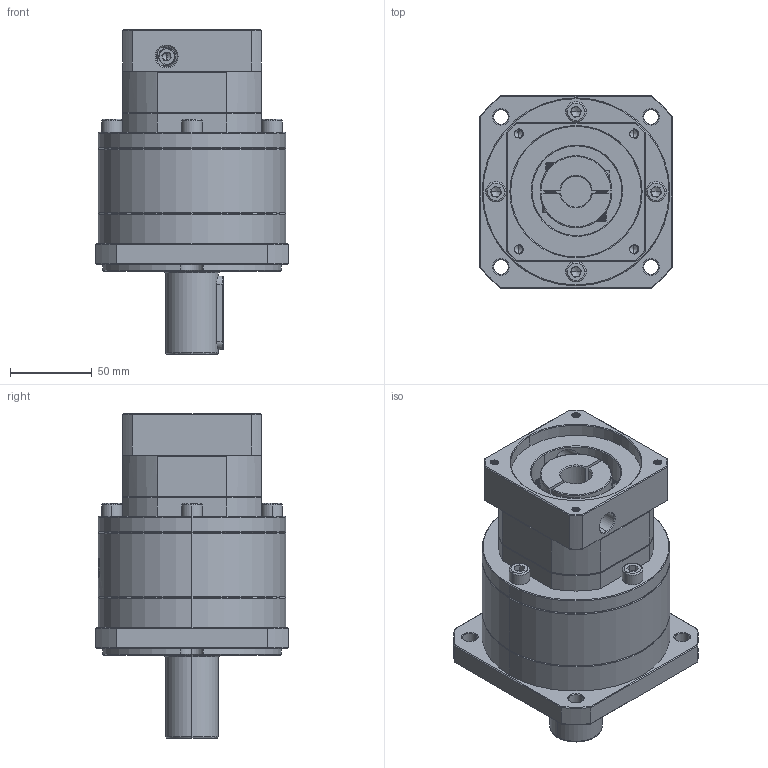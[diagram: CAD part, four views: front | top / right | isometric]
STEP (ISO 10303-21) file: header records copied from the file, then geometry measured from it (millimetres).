
FILE_DESCRIPTION (( 'STEP AP214' ), '1' );
FILE_NAME ('ZF120A-D32-L2-P2-19-80-100-M6.step', '2023-08-27T06:00:13', ( '' ), ( '' ), 'SwSTEP 2.0', 'SolidWorks 2016', '' );
FILE_SCHEMA (( 'AUTOMOTIVE_DESIGN' ));
Length unit declared in the file: millimetre
Products named in the file (1): ZF120A-D32-L2-P2-19-80-100-M6
Bounding box: 118 x 118 x 199 mm (x, y, z)
Volume: 1281547.7 mm3; surface area: 128946.9 mm2
Topology: 5 solids, 6 shells, 2212 faces, 5871 edges, 3758 vertices
Faces by surface type: plane 1064, bspline 419, cylinder 402, cone 312, torus 15
Entity records: 121289 total; most frequent: CARTESIAN_POINT 47514, ORIENTED_EDGE 11682, DIRECTION 8412, EDGE_CURVE 5841, VERTEX_POINT 3758, VECTOR 3098, LINE 3098, AXIS2_PLACEMENT_3D 2657
